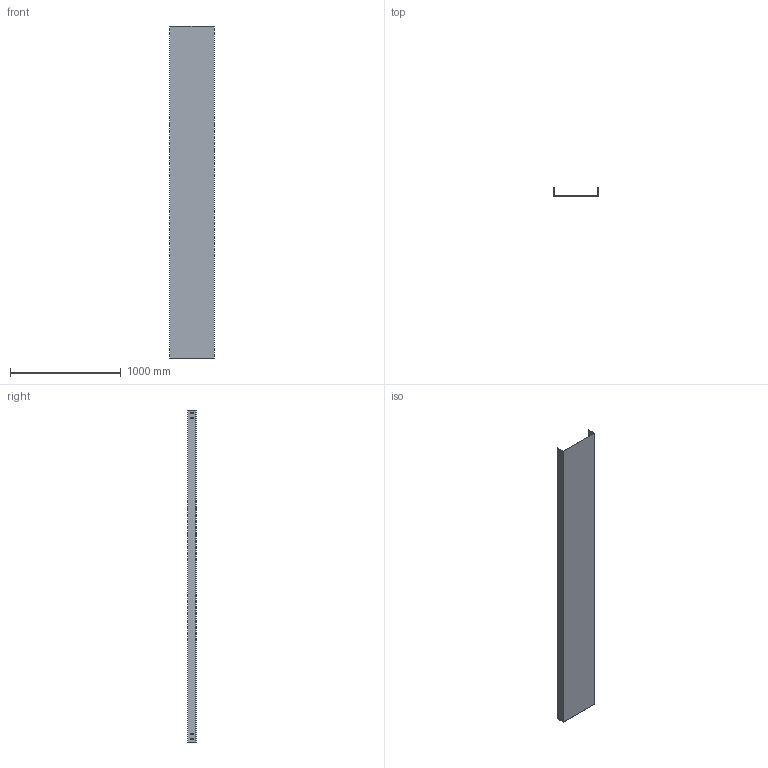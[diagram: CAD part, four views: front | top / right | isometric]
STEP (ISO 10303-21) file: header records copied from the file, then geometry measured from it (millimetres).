
FILE_DESCRIPTION (( 'STEP AP214' ), '1' );
FILE_NAME ('CC_407.step', '2025-07-16T09:04:36', ( '' ), ( '' ), 'SwSTEP 2.0', 'SolidWorks 2023', '' );
FILE_SCHEMA (( 'AUTOMOTIVE_DESIGN' ));
Length unit declared in the file: millimetre
Products named in the file (1): CC_407
Bounding box: 400 x 75 x 3000 mm (x, y, z)
Volume: 2459820 mm3; surface area: 3291217 mm2
Topology: 1 solids, 1 shells, 74 faces, 216 edges, 144 vertices
Faces by surface type: plane 74
Entity records: 2487 total; most frequent: CARTESIAN_POINT 435, ORIENTED_EDGE 432, DIRECTION 366, EDGE_CURVE 216, LINE 216, VECTOR 216, VERTEX_POINT 144, EDGE_LOOP 106
